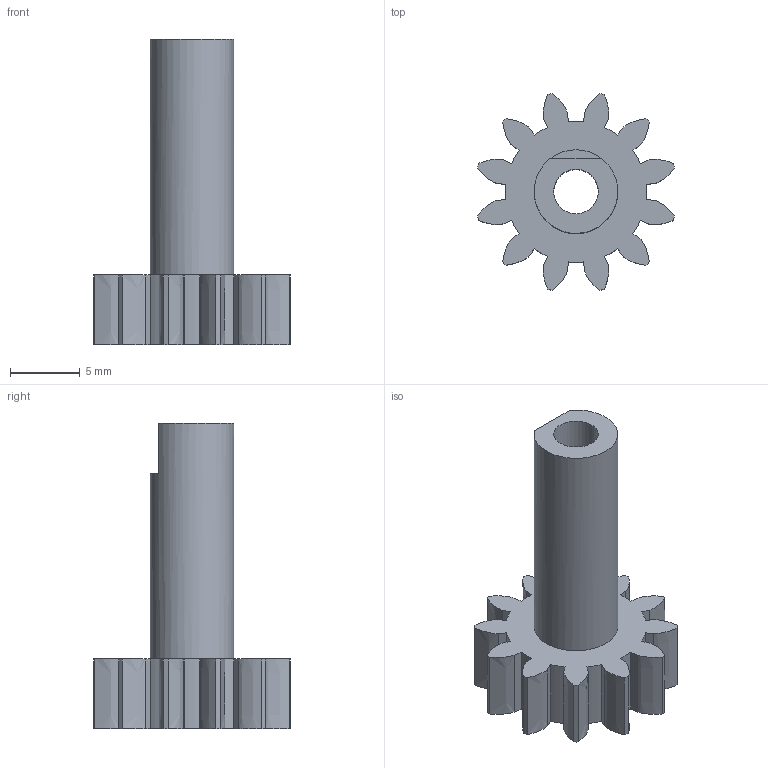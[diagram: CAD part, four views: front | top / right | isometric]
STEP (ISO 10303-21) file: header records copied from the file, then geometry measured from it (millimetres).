
FILE_DESCRIPTION(('Open CASCADE Model'),'2;1');
FILE_NAME('Open CASCADE Shape Model','2026-10-12T22:10:17',('Author'),( 'Open CASCADE'),'Open CASCADE STEP processor 7.9','Open CASCADE 7.9' ,'Unknown');
FILE_SCHEMA(('AUTOMOTIVE_DESIGN { 1 0 10303 214 1 1 1 1 }'));
Length unit declared in the file: millimetre
Products named in the file (1): Open CASCADE STEP translator 7.9 20
Bounding box: 14.11 x 14.11 x 21.9 mm (x, y, z)
Volume: 877.7 mm3; surface area: 1133.9 mm2
Topology: 1 solids, 1 shells, 79 faces, 228 edges, 152 vertices
Faces by surface type: plane 29, cylinder 26, extrusion 24
Full cylindrical faces by diameter (mm): 3.2 x1, 6 x1
Entity records: 6222 total; most frequent: CARTESIAN_POINT 1756, DIRECTION 778, VECTOR 504, LINE 480, ORIENTED_EDGE 456, PCURVE 456, DEFINITIONAL_REPRESENTATION 456, EDGE_CURVE 228
